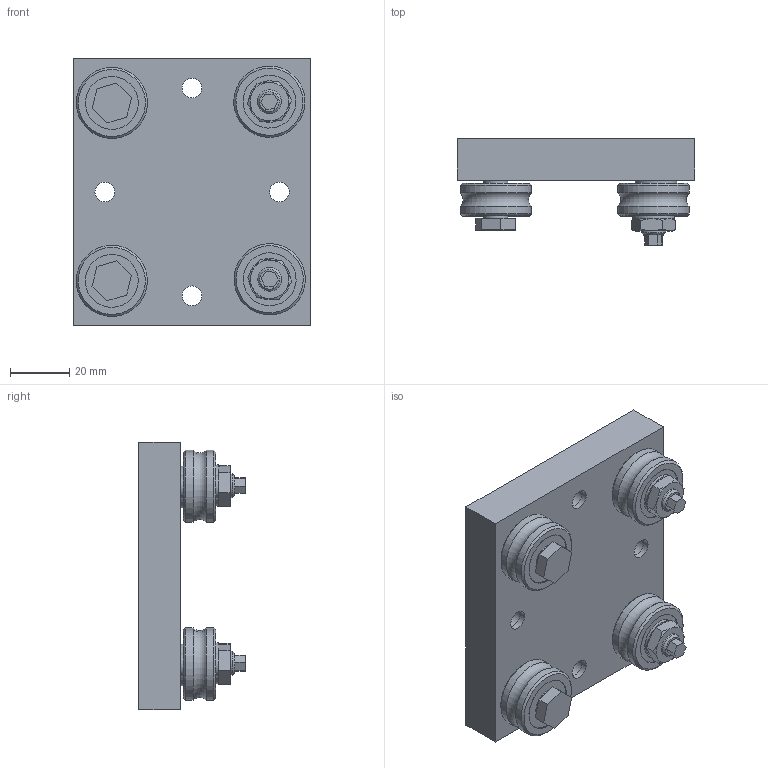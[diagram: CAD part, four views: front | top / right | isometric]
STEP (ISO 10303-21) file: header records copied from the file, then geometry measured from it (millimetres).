
FILE_DESCRIPTION(/* description */ ('Unknown'),/* implementation_level */ '2;1');
FILE_NAME(/* name */ 'Laufwagen_HLF32_20220102',/* time_stamp */ '2022-01-03T17:10:44+01:00',/* author */ ('Unknown'),/* organization */ ('Unknown'),/* preprocessor_version */ 'ST-DEVELOPER v16.7',/* originating_system */ 'Solid Edge',/* authorisation */ 'Unknown');
FILE_SCHEMA (('AUTOMOTIVE_DESIGN {1 0 10303 214 3 1 1}'));
Length unit declared in the file: millimetre
Products named in the file (5): Laufwagen_HLF32_20220102; 20220102_Laufwagenplatte_HLF32; inafag_lfe8-1_25znmllpjw4mc1xpwgrngd3eh; inafag_lfz8_9q6ur1pc3gtbq7iwwydmbh80y; inafag_lfr50_8-6-2z_1r0qmx4jrbr5ja15tcj5q50ul
Assembly tree (9 placements, depth 2):
  Laufwagen_HLF32_20220102
    20220102_Laufwagenplatte_HLF32
    inafag_lfe8-1_25znmllpjw4mc1xpwgrngd3eh  x2
    inafag_lfz8_9q6ur1pc3gtbq7iwwydmbh80y  x2
    inafag_lfr50_8-6-2z_1r0qmx4jrbr5ja15tcj5q50ul  x4
Bounding box: 80 x 35.85 x 90 mm (x, y, z)
Volume: 126127.5 mm3; surface area: 43038.4 mm2
Topology: 13 solids, 17 shells, 624 faces, 2048 edges, 1278 vertices
Faces by surface type: cylinder 194, sphere 160, plane 152, torus 76, cone 42
Full cylindrical faces by diameter (mm): 6 x4, 6.647 x16, 8 x14, 8.002 x6, 10.5 x16, 12.2 x12, 13.4 x8, 14 x6, 16.6 x8, 17.8 x20, 24 x8
Entity records: 6943 total; most frequent: CARTESIAN_POINT 1710, DIRECTION 800, ORIENTED_EDGE 780, EDGE_CURVE 390, AXIS2_PLACEMENT_3D 354, EDGE_LOOP 287, FACE_BOUND 287, VERTEX_POINT 285
